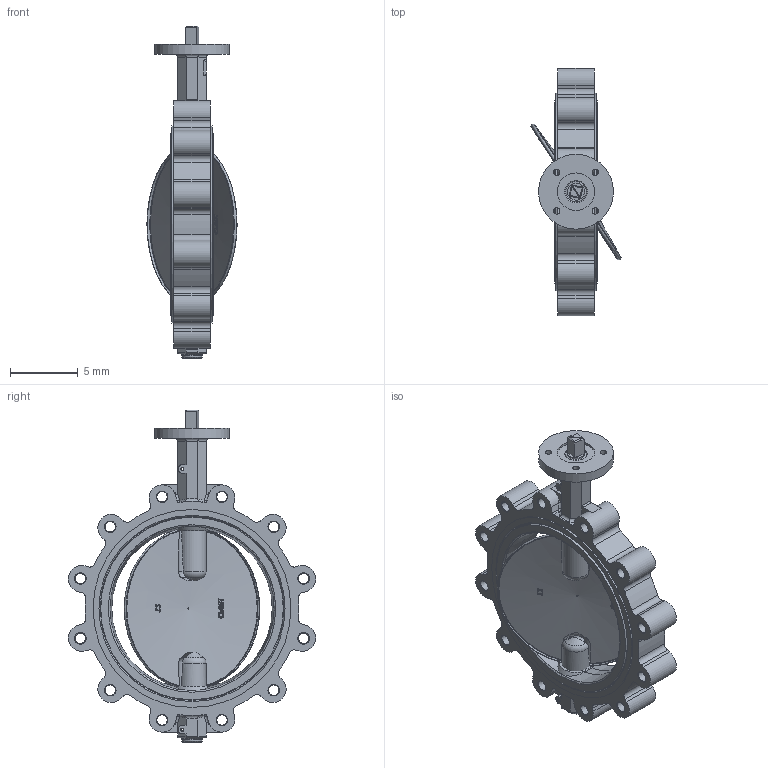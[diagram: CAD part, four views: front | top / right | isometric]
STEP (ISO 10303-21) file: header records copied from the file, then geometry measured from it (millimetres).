
FILE_DESCRIPTION(('Open CASCADE Model'),'2;1');
FILE_NAME('Open CASCADE Shape Model','2022-09-30T11:13:05',('Author'),( 'Open CASCADE'),'Open CASCADE STEP processor 7.3','Open CASCADE 7.3' ,'Unknown');
FILE_SCHEMA(('AUTOMOTIVE_DESIGN { 1 0 10303 214 1 1 1 1 }'));
Length unit declared in the file: millimetre
Products named in the file (16): Open CASCADE STEP translator 7.3 1; Open CASCADE STEP translator 7.3 1.1; Open CASCADE STEP translator 7.3 1.2; Open CASCADE STEP translator 7.3 1.3; Open CASCADE STEP translator 7.3 1.4; Open CASCADE STEP translator 7.3 1.5; Open CASCADE STEP translator 7.3 1.6; Open CASCADE STEP translator 7.3 1.7; Open CASCADE STEP translator 7.3 1.8; Open CASCADE STEP translator 7.3 1.9; Open CASCADE STEP translator 7.3 1.10; Open CASCADE STEP translator 7.3 1.11; Open CASCADE STEP translator 7.3 1.12; Open CASCADE STEP translator 7.3 1.13; Open CASCADE STEP translator 7.3 1.14; Open CASCADE STEP translator 7.3 1.15
Assembly tree (15 placements, depth 2):
  Open CASCADE STEP translator 7.3 1
    Open CASCADE STEP translator 7.3 1.1
    Open CASCADE STEP translator 7.3 1.2
    Open CASCADE STEP translator 7.3 1.3
    Open CASCADE STEP translator 7.3 1.4
    Open CASCADE STEP translator 7.3 1.5
    Open CASCADE STEP translator 7.3 1.6
    Open CASCADE STEP translator 7.3 1.7
    Open CASCADE STEP translator 7.3 1.8
    Open CASCADE STEP translator 7.3 1.9
    Open CASCADE STEP translator 7.3 1.10
    Open CASCADE STEP translator 7.3 1.11
    Open CASCADE STEP translator 7.3 1.12
    Open CASCADE STEP translator 7.3 1.13
    Open CASCADE STEP translator 7.3 1.14
    Open CASCADE STEP translator 7.3 1.15
Bounding box: 6.64 x 18.21 x 24.45 mm (x, y, z)
Volume: 404.6 mm3; surface area: 1325.9 mm2
Topology: 15 solids, 15 shells, 552 faces, 1408 edges, 910 vertices
Faces by surface type: plane 214, cylinder 169, bspline 72, cone 64, torus 33
Full cylindrical faces by diameter (mm): 0.236 x2, 0.473 x4, 0.766 x12, 1.064 x1, 1.103 x1, 1.143 x1, 1.217 x6, 1.245 x3, 1.253 x5, 1.255 x1, 1.257 x4, 1.3 x1, 1.493 x2, 1.497 x4, 1.501 x6, 2.758 x1, 5.516 x1, 13.451 x2, 13.554 x1, 13.561 x1, 14.578 x2
Entity records: 54283 total; most frequent: CARTESIAN_POINT 27059, DIRECTION 4685, ORIENTED_EDGE 2810, PCURVE 2810, DEFINITIONAL_REPRESENTATION 2810, LINE 2302, VECTOR 2302, EDGE_CURVE 1405
